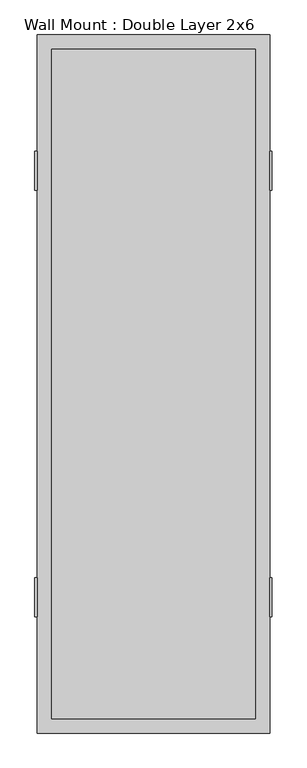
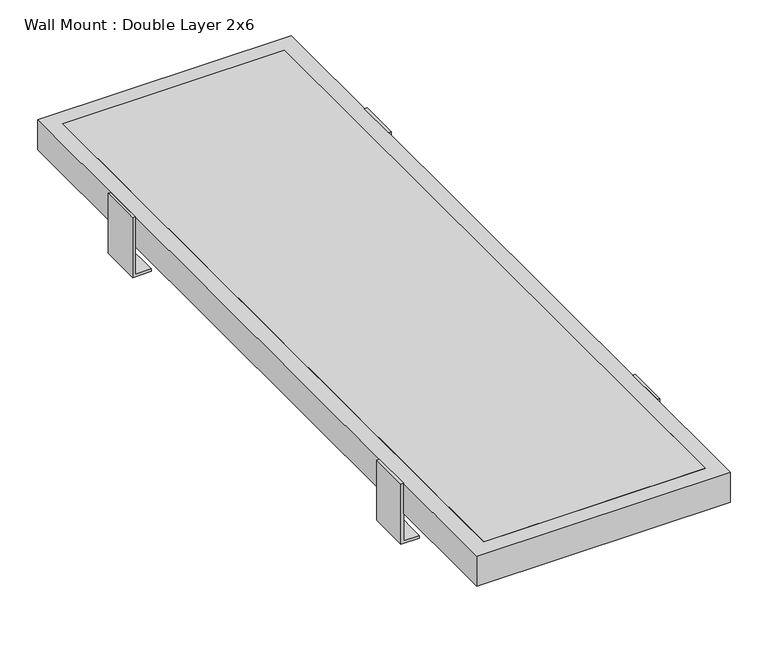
"""IFC4 building model written with IfcOpenShell, lengths in millimetres: proxy geometry, Wall Mount : Double Layer 2x6."""

from ifc_helpers import new_model, si_unit, frame, origin, place, context, project, spatial, polyline, outline, extrude, source, transform, mapped, element, save


def wall_mount_double_layer_2x6_20bcc1c5(model_context):
    return source(origin(), model_context, "Body", "SweptSolid", [
        extrude(outline(polyline([(266.7, 876.3), (266.7, -876.3), (-266.7, -876.3), (-266.7, 876.3), (266.7, 876.3)])), frame((0.0, 0.0, 76.2), z_axis=(0.0, 0.0, 1.0), x_axis=(1.0, 0.0, 0.0)), (0.0, 0.0, 1.0), 76.2),
        extrude(outline(polyline([(266.7, 876.3), (266.7, -876.3), (-266.7, -876.3), (-266.7, 876.3), (266.7, 876.3)])), frame((0.0, 0.0, 79.375), z_axis=(0.0, 0.0, 1.0), x_axis=(1.0, 0.0, 0.0)), (0.0, 0.0, 1.0), 6.35),
        extrude(outline(polyline([(0.0, -311.15), (0.0, -266.7), (6.35, -266.7), (6.35, -304.8), (152.4, -304.8), (152.4, -311.15), (0.0, -311.15)])), frame((0.0, 508.0, 0.0), z_axis=(0.0, 1.0, 0.0), x_axis=(0.0, 0.0, 1.0)), (0.0, 0.0, 1.0), 101.6),
        extrude(outline(polyline([(0.0, 311.15), (152.4, 311.15), (152.4, 304.8), (6.35, 304.8), (6.35, 266.7), (0.0, 266.7), (0.0, 311.15)])), frame((0.0, 508.0, 0.0), z_axis=(0.0, 1.0, 0.0), x_axis=(0.0, 0.0, 1.0)), (0.0, 0.0, 1.0), 101.6),
        extrude(outline(polyline([(0.0, -311.15), (0.0, -266.7), (6.35, -266.7), (6.35, -304.8), (152.4, -304.8), (152.4, -311.15), (0.0, -311.15)])), frame((0.0, -609.6, 0.0), z_axis=(0.0, 1.0, 0.0), x_axis=(0.0, 0.0, 1.0)), (0.0, 0.0, 1.0), 101.6),
        extrude(outline(polyline([(0.0, 311.15), (152.4, 311.15), (152.4, 304.8), (6.35, 304.8), (6.35, 266.7), (0.0, 266.7), (0.0, 311.15)])), frame((0.0, -609.6, 0.0), z_axis=(0.0, 1.0, 0.0), x_axis=(0.0, 0.0, 1.0)), (0.0, 0.0, 1.0), 101.6),
        extrude(outline(polyline([(266.7, 876.3), (266.7, -876.3), (-266.7, -876.3), (-266.7, 876.3), (266.7, 876.3)])), frame((0.0, 0.0, 142.875), z_axis=(0.0, 0.0, 1.0), x_axis=(1.0, 0.0, 0.0)), (0.0, 0.0, 1.0), 6.35),
        extrude(outline(polyline([(304.8, 914.4), (304.8, -914.4), (-304.8, -914.4), (-304.8, 914.4), (304.8, 914.4)]), holes=[polyline([(266.7, 876.3), (-266.7, 876.3), (-266.7, -876.3), (266.7, -876.3), (266.7, 876.3)])]), frame((0.0, 0.0, 76.2), z_axis=(0.0, 0.0, 1.0), x_axis=(1.0, 0.0, 0.0)), (0.0, 0.0, 1.0), 76.2),
    ])


if __name__ == "__main__":
    model = new_model("IFC4")
    model_context = context("Model", 3, world=origin())
    ifc_project = project(units=[si_unit("LENGTHUNIT", "METRE", prefix="MILLI")], contexts=[model_context])
    site = spatial("IfcSite", under=ifc_project)
    building = spatial("IfcBuilding", under=site)
    placement = place(None, origin())
    wall_mount_double_layer_2x6_shape = wall_mount_double_layer_2x6_20bcc1c5(model_context)
    element("IfcBuildingElementProxy", 1, Name="Wall Mount : Double Layer 2x6", ObjectType="Wall Mount : Double Layer 2x6", at=placement, inside=building, context=model_context, shape_type="MappedRepresentation", body=[
        mapped(wall_mount_double_layer_2x6_shape, transform((0.0, 0.0, 0.0), x_axis=(1.0, 0.0, 0.0), y_axis=(0.0, 1.0, 0.0), z_axis=(0.0, 0.0, 1.0))),
    ])
    save(model, "model.ifc")
